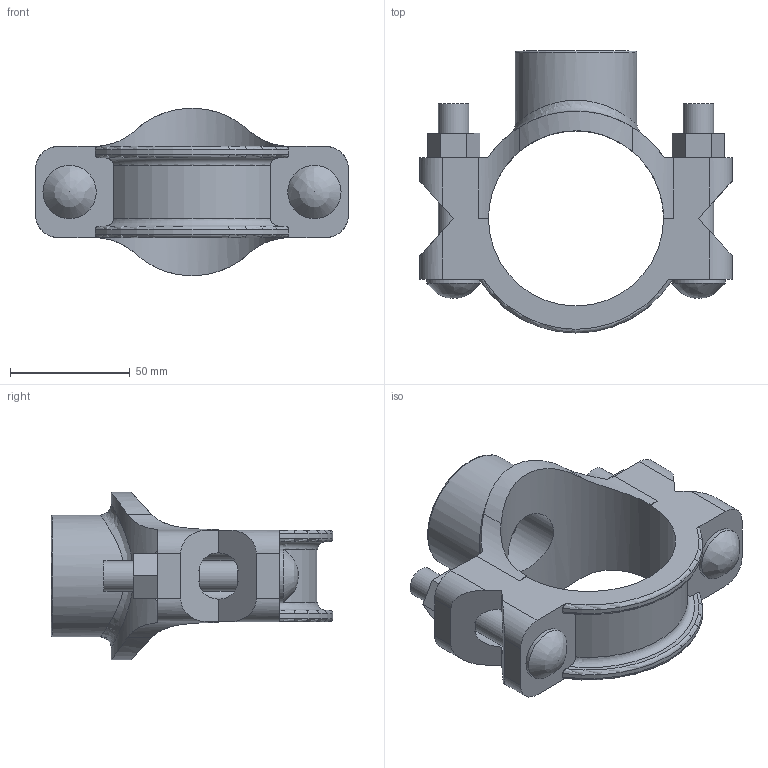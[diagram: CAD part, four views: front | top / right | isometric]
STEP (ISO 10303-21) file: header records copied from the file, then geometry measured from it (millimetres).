
FILE_DESCRIPTION(/* description */ ('VIC SS MECHANICAL T BRANCH OUTLET STYLE 422 (FPT)','CAx-IF Rec.Pracs.---Representation and Presentation of Product Manufacturing Information (PMI)---4.0---2014-10-13'),/* implementation_level */ '2;1');
FILE_NAME(/* name */ 'C:\Files for Export\422\STEP\Victaulic_SS-OGS_Mech-Tee Out_Style 422 (FPT)\Victaulic_SS-OGS_Mech-Tee Out_Style 422 (FPT)_02.5x01.0 (65x25).stp',/* time_stamp */ '2023-03-28T14:28:21+02:00',/* author */ ('jheald'),/* organization */ ('Victaulic'),/* preprocessor_version */ 'ST-DEVELOPER v18.1',/* originating_system */ 'Autodesk Inventor 2020',/* authorisation */ '');
FILE_SCHEMA (('AP242_MANAGED_MODEL_BASED_3D_ENGINEERING_MIM_LF { 1 0 10303 442 1 1 4 }'));
Length unit declared in the file: inch
Products named in the file (1): 422-02.5x01.0
Bounding box: 130.56 x 117.6 x 69.81 mm (x, y, z)
Volume: 192389.4 mm3; surface area: 54085.1 mm2
Topology: 1 solids, 1 shells, 92 faces, 280 edges, 186 vertices
Faces by surface type: plane 48, cylinder 34, torus 7, bspline 3
Full cylindrical faces by diameter (mm): 12.7 x4, 22.225 x2, 26.987 x1, 33.401 x1, 50.8 x1, 73.025 x1
Entity records: 3906 total; most frequent: CARTESIAN_POINT 1138, ORIENTED_EDGE 556, DIRECTION 552, EDGE_CURVE 278, AXIS2_PLACEMENT_3D 200, VERTEX_POINT 186, LINE 152, VECTOR 152
